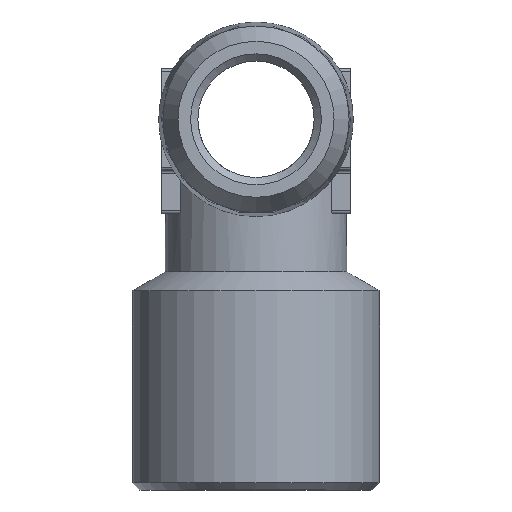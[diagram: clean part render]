
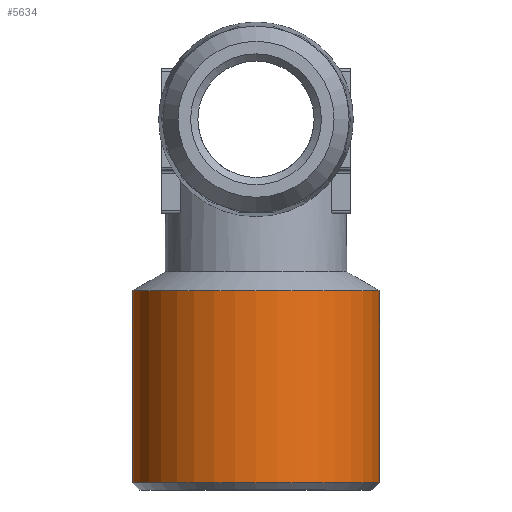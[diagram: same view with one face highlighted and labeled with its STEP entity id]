
A CAD part, left-side view. The second image highlights one B-rep face of the part: STEP entity #5634.
In plain terms, the highlighted cylindrical face has radius 8.5 mm (diameter 17 mm), a full revolution.
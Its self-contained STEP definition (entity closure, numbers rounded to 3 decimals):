
#1573=ORIENTED_EDGE('',*,*,#1926,.F.);
#1574=ORIENTED_EDGE('',*,*,#1925,.T.);
#1740=CIRCLE('',#5536,8.5);
#1741=CIRCLE('',#5538,8.5);
#1824=VERTEX_POINT('',#5373);
#1825=VERTEX_POINT('',#5376);
#1925=EDGE_CURVE('',#1824,#1824,#1740,.T.);
#1926=EDGE_CURVE('',#1825,#1825,#1741,.T.);
#2014=EDGE_LOOP('',(#1573));
#2015=EDGE_LOOP('',(#1574));
#2096=FACE_BOUND('',#2014,.T.);
#2097=FACE_BOUND('',#2015,.T.);
#2274=DIRECTION('',(0.,1.,0.));
#2275=DIRECTION('',(0.,0.,8.5));
#2276=DIRECTION('',(0.,1.,0.));
#2277=DIRECTION('',(1.,0.,0.));
#2278=DIRECTION('',(0.,1.,0.));
#2279=DIRECTION('',(0.,0.,8.5));
#5373=CARTESIAN_POINT('',(9.364,16.116,8.5));
#5374=CARTESIAN_POINT('',(9.364,16.116,0.));
#5375=CARTESIAN_POINT('',(9.364,16.116,0.));
#5376=CARTESIAN_POINT('',(9.364,29.317,8.5));
#5377=CARTESIAN_POINT('',(9.364,29.317,0.));
#5536=AXIS2_PLACEMENT_3D('',#5374,#2274,#2275);
#5537=AXIS2_PLACEMENT_3D('',#5375,#2276,#2277);
#5538=AXIS2_PLACEMENT_3D('',#5377,#2278,#2279);
#5595=CYLINDRICAL_SURFACE('',#5537,8.5);
#5634=ADVANCED_FACE('',(#2096,#2097),#5595,.T.);
